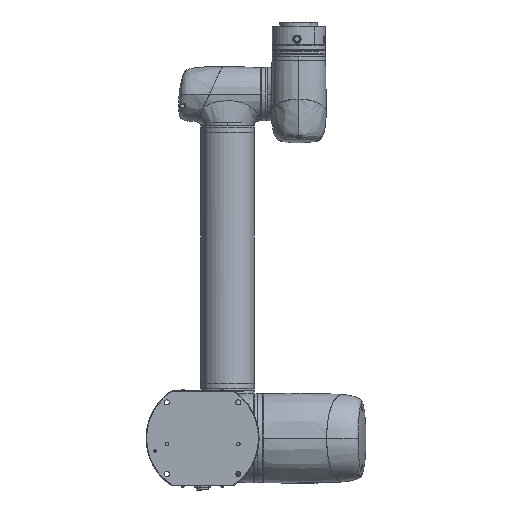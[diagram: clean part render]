
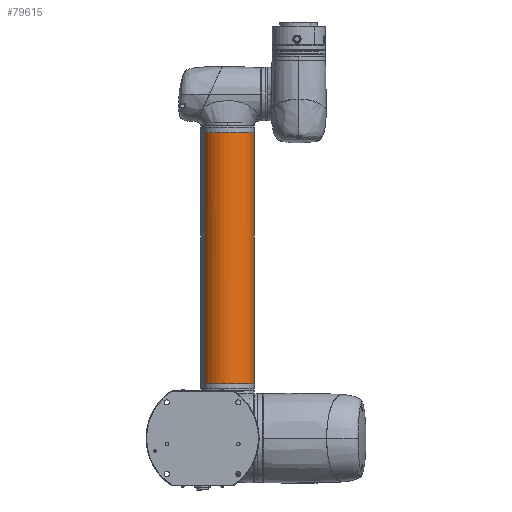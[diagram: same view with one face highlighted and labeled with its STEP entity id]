
A CAD part, front view. The second image highlights one B-rep face of the part: STEP entity #79615.
In plain terms, the highlighted cylindrical face has radius 45 mm (diameter 90 mm), a partial arc.
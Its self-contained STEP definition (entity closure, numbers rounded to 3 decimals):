
#2086 = CARTESIAN_POINT ( 'NONE',  ( 100.447, 19.942, 513.1 ) ) ;
#2544 = VERTEX_POINT ( 'NONE', #70807 ) ;
#2669 = CARTESIAN_POINT ( 'NONE',  ( 40.058, 40.447, 513.1 ) ) ;
#3815 = CARTESIAN_POINT ( 'NONE',  ( 15., 0., 80. ) ) ;
#3834 = CARTESIAN_POINT ( 'NONE',  ( 45.5, 42.702, 513.1 ) ) ;
#4705 = B_SPLINE_CURVE_WITH_KNOTS ( 'NONE', 3,
 ( #74207, #57171, #92949, #73042, #82429, #2086, #28436, #84175, #37895, #109943, #84755, #56607, #92367, #57755, #30791, #10885, #83601, #29025, #83017, #109336, #3834, #2669, #46671, #20263, #64245, #37307, #75378, #99982, #29635, #65426, #111101, #110541, #56027, #101168 ),
 .UNSPECIFIED., .F., .F.,
 ( 4, 2, 2, 2, 2, 2, 2, 2, 2, 2, 2, 2, 2, 2, 2, 2, 4 ),
 ( 0.475, 0.506, 0.537, 0.569, 0.6, 0.631, 0.662, 0.694, 0.725, 0.756, 0.787, 0.819, 0.85, 0.881, 0.912, 0.944, 0.975 ),
 .UNSPECIFIED. ) ;
#4751 = CARTESIAN_POINT ( 'NONE',  ( 60., 0., 91.5 ) ) ;
#5114 = VECTOR ( 'NONE', #92353, 1000. ) ;
#5318 = EDGE_CURVE ( 'NONE', #74789, #73845, #29617, .T. ) ;
#8254 = FACE_OUTER_BOUND ( 'NONE', #15430, .T. ) ;
#10885 = CARTESIAN_POINT ( 'NONE',  ( 65.89, 44.71, 513.1 ) ) ;
#14047 = VECTOR ( 'NONE', #56584, 1000. ) ;
#15321 = CARTESIAN_POINT ( 'NONE',  ( 105., 0., 513.1 ) ) ;
#15430 = EDGE_LOOP ( 'NONE', ( #61956, #54643, #55642, #92622 ) ) ;
#20263 = CARTESIAN_POINT ( 'NONE',  ( 32.55, 35.78, 513.1 ) ) ;
#20615 = DIRECTION ( 'NONE',  ( 1., 0., 0. ) ) ;
#22104 = EDGE_CURVE ( 'NONE', #74531, #2544, #50127, .T. ) ;
#28436 = CARTESIAN_POINT ( 'NONE',  ( 99.052, 22.552, 513.1 ) ) ;
#29025 = CARTESIAN_POINT ( 'NONE',  ( 57.055, 45., 513.1 ) ) ;
#29615 = CARTESIAN_POINT ( 'NONE',  ( 105., 0., 80. ) ) ;
#29617 = LINE ( 'NONE', #3815, #5114 ) ;
#29635 = CARTESIAN_POINT ( 'NONE',  ( 19.553, 19.942, 513.1 ) ) ;
#30791 = CARTESIAN_POINT ( 'NONE',  ( 71.668, 43.561, 513.1 ) ) ;
#35699 = CARTESIAN_POINT ( 'NONE',  ( 15., 0., 513.1 ) ) ;
#36998 = DIRECTION ( 'NONE',  ( 0., 0., -1. ) ) ;
#37307 = CARTESIAN_POINT ( 'NONE',  ( 26.098, 29.737, 513.1 ) ) ;
#37895 = CARTESIAN_POINT ( 'NONE',  ( 93.902, 29.737, 513.1 ) ) ;
#39096 = EDGE_CURVE ( 'NONE', #74531, #74789, #4705, .T. ) ;
#42317 = CYLINDRICAL_SURFACE ( 'NONE', #108986, 45. ) ;
#43815 = CIRCLE ( 'NONE', #86935, 45. ) ;
#46671 = CARTESIAN_POINT ( 'NONE',  ( 37.448, 39.052, 513.1 ) ) ;
#50127 = LINE ( 'NONE', #29615, #14047 ) ;
#54643 = ORIENTED_EDGE ( 'NONE', *, *, #22104, .T. ) ;
#55103 = CARTESIAN_POINT ( 'NONE',  ( 60., 0., 80. ) ) ;
#55642 = ORIENTED_EDGE ( 'NONE', *, *, #70531, .T. ) ;
#56027 = CARTESIAN_POINT ( 'NONE',  ( 15., 2.945, 513.1 ) ) ;
#56584 = DIRECTION ( 'NONE',  ( 0., 0., -1. ) ) ;
#56607 = CARTESIAN_POINT ( 'NONE',  ( 82.552, 39.052, 513.1 ) ) ;
#57171 = CARTESIAN_POINT ( 'NONE',  ( 105., 2.945, 513.1 ) ) ;
#57755 = CARTESIAN_POINT ( 'NONE',  ( 74.5, 42.702, 513.1 ) ) ;
#61956 = ORIENTED_EDGE ( 'NONE', *, *, #39096, .F. ) ;
#64245 = CARTESIAN_POINT ( 'NONE',  ( 30.263, 33.902, 513.1 ) ) ;
#65426 = CARTESIAN_POINT ( 'NONE',  ( 17.298, 14.5, 513.1 ) ) ;
#70531 = EDGE_CURVE ( 'NONE', #2544, #73845, #43815, .T. ) ;
#70807 = CARTESIAN_POINT ( 'NONE',  ( 105., 0., 91.5 ) ) ;
#73042 = CARTESIAN_POINT ( 'NONE',  ( 103.561, 11.668, 513.1 ) ) ;
#73845 = VERTEX_POINT ( 'NONE', #103973 ) ;
#74207 = CARTESIAN_POINT ( 'NONE',  ( 105., 0., 513.1 ) ) ;
#74531 = VERTEX_POINT ( 'NONE', #15321 ) ;
#74789 = VERTEX_POINT ( 'NONE', #35699 ) ;
#75152 = DIRECTION ( 'NONE',  ( 0., 0., 1. ) ) ;
#75378 = CARTESIAN_POINT ( 'NONE',  ( 24.22, 27.45, 513.1 ) ) ;
#79615 = ADVANCED_FACE ( 'NONE', ( #8254 ), #42317, .T. ) ;
#82429 = CARTESIAN_POINT ( 'NONE',  ( 102.702, 14.5, 513.1 ) ) ;
#83017 = CARTESIAN_POINT ( 'NONE',  ( 54.11, 44.71, 513.1 ) ) ;
#83601 = CARTESIAN_POINT ( 'NONE',  ( 62.945, 45., 513.1 ) ) ;
#84175 = CARTESIAN_POINT ( 'NONE',  ( 95.78, 27.45, 513.1 ) ) ;
#84755 = CARTESIAN_POINT ( 'NONE',  ( 87.45, 35.78, 513.1 ) ) ;
#86935 = AXIS2_PLACEMENT_3D ( 'NONE', #4751, #75152, #20615 ) ;
#92353 = DIRECTION ( 'NONE',  ( 0., 0., -1. ) ) ;
#92367 = CARTESIAN_POINT ( 'NONE',  ( 79.942, 40.447, 513.1 ) ) ;
#92622 = ORIENTED_EDGE ( 'NONE', *, *, #5318, .F. ) ;
#92949 = CARTESIAN_POINT ( 'NONE',  ( 104.71, 5.89, 513.1 ) ) ;
#99982 = CARTESIAN_POINT ( 'NONE',  ( 20.948, 22.552, 513.1 ) ) ;
#101168 = CARTESIAN_POINT ( 'NONE',  ( 15., 0., 513.1 ) ) ;
#103973 = CARTESIAN_POINT ( 'NONE',  ( 15., 0., 91.5 ) ) ;
#108986 = AXIS2_PLACEMENT_3D ( 'NONE', #55103, #36998, #109025 ) ;
#109025 = DIRECTION ( 'NONE',  ( -1., 0., 0. ) ) ;
#109336 = CARTESIAN_POINT ( 'NONE',  ( 48.332, 43.561, 513.1 ) ) ;
#109943 = CARTESIAN_POINT ( 'NONE',  ( 89.737, 33.902, 513.1 ) ) ;
#110541 = CARTESIAN_POINT ( 'NONE',  ( 15.29, 5.89, 513.1 ) ) ;
#111101 = CARTESIAN_POINT ( 'NONE',  ( 16.439, 11.668, 513.1 ) ) ;
